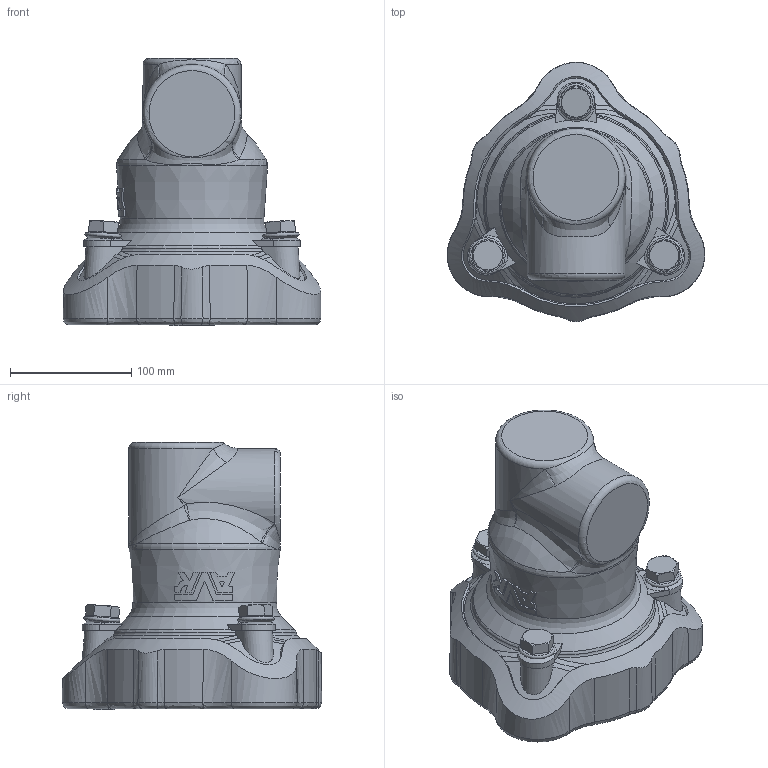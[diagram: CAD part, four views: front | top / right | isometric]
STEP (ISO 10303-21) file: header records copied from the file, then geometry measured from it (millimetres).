
FILE_DESCRIPTION (( 'STEP AP203' ), '1' );
FILE_NAME ('O_634_00_DN080_082-106mm_AA0_step.step', '2016-05-10T09:15:38', ( 'Windows User' ), ( 'AVK' ), 'SwSTEP 2.0', 'SolidWorks 2012', '' );
FILE_SCHEMA (( 'CONFIG_CONTROL_DESIGN' ));
Length unit declared in the file: millimetre
Products named in the file (1): O_634_00_DN080_082-106mm_AA0_step
Bounding box: 212.79 x 214.14 x 220.51 mm (x, y, z)
Volume: 2270504.2 mm3; surface area: 200395.4 mm2
Topology: 1 solids, 1 shells, 397 faces, 1042 edges, 662 vertices
Faces by surface type: bspline 163, plane 121, cylinder 56, cone 31, torus 19, sphere 7
Full cylindrical faces by diameter (mm): 20 x3, 106 x3
Entity records: 19037 total; most frequent: CARTESIAN_POINT 11192, ORIENTED_EDGE 2022, DIRECTION 1072, EDGE_CURVE 1011, VERTEX_POINT 653, EDGE_LOOP 432, FACE_OUTER_BOUND 414, ADVANCED_FACE 396
